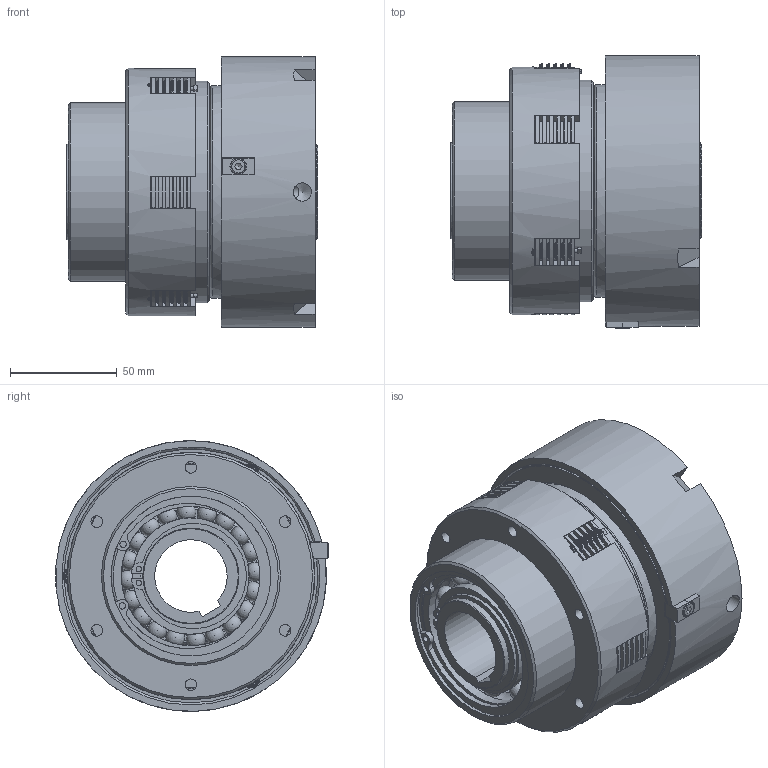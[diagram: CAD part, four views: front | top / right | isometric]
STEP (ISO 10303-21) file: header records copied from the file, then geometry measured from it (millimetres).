
FILE_DESCRIPTION(/* description */ (''),/* implementation_level */ '2;1');
FILE_NAME(/* name */ '\\Srv-tecnico\DATI\UFFICIO TECNICO\ARCHIVIO INVENTOR\DISEGNI\UFFICIO TECNICO\03_Friz_Oleodinamiche e Pneumatiche_Cilindro_Statico\03_06 LPR\03_06_004_01 LPR04\03_06_004_01 LPR04@STEP.stp',/* time_stamp */ '2015-12-14T16:33:31+01:00',/* author */ ('stefano'),/* organization */ (''),/* preprocessor_version */ 'ST-DEVELOPER v15.6',/* originating_system */ 'Autodesk Inventor 2015',/* authorisation */ '');
FILE_SCHEMA (('AUTOMOTIVE_DESIGN { 1 0 10303 214 3 1 1 }'));
Length unit declared in the file: millimetre
Products named in the file (1): 03_06_004_01 LPR04_Substitute_1
Bounding box: 118 x 128 x 126.98 mm (x, y, z)
Volume: 772208.5 mm3; surface area: 321930.5 mm2
Topology: 29 solids, 29 shells, 760 faces, 2274 edges, 1500 vertices
Faces by surface type: plane 351, cylinder 225, torus 97, sphere 42, cone 30, bspline 15
Full cylindrical faces by diameter (mm): 2 x3, 2.5 x4, 2.75 x18, 3 x2, 5.459 x6, 6 x1, 7 x1, 8.566 x1, 42.5 x3, 45 x6, 52 x1, 54.6 x6, 65 x1, 65.4 x6, 66 x1, 67 x2, 70 x6, 74 x1, 75 x5, 76.2 x2, 78 x2, 79 x1, 80 x1, 84 x1, 85 x1, 88 x1, 88.8 x2, 100 x6, 104 x1, 110 x1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
Entity records: 32896 total; most frequent: CARTESIAN_POINT 13518, ORIENTED_EDGE 3950, DIRECTION 3900, EDGE_CURVE 1973, AXIS2_PLACEMENT_3D 1575, VERTEX_POINT 1366, EDGE_LOOP 1033, CIRCLE 823
